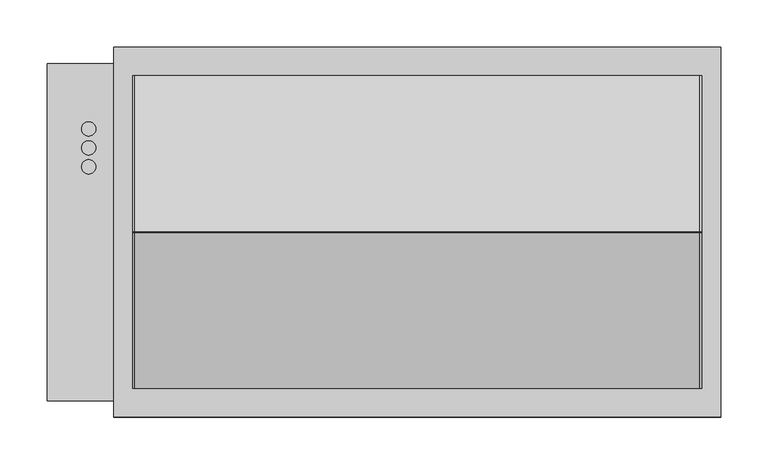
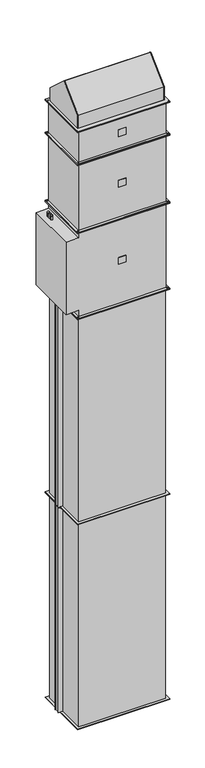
"""IFC4 building model written with IfcOpenShell, lengths in millimetres: proxy geometry, KORF_Завеса_ЭлектрическийНагрев_PWZ_C : PWZ-C 60-35 E."""

from ifc_helpers import new_model, si_unit, point, frame, frame_2d, origin, origin_with_axes, place, context, project, spatial, polyline, circle_curve, trimmed, segment, composite_curve, outline, extrude, source, transform, mapped, element, save


def mechanical_equipment_da6cc8be(model_context):
    return source(origin(), model_context, "Body", "SweptSolid", [
        extrude(outline(polyline([(25.0, -180.0), (-25.0, -180.0), (-25.0, -178.0), (25.0, -178.0), (25.0, -180.0)])), frame((0.0, 0.0, 3290.0), z_axis=(0.0, 0.0, 1.0), x_axis=(1.0, 0.0, 0.0)), (0.0, 0.0, 1.0), 50.0),
        extrude(outline(composite_curve([segment(trimmed(circle_curve(frame_2d((-346.5, 89.0)), 7.5), [point((-339.0, 89.0))], [point((-354.0, 89.0))], False, "CARTESIAN"), True, "CONTINUOUS"), segment(trimmed(circle_curve(frame_2d((-346.5, 89.0)), 7.5), [point((-354.0, 89.0))], [point((-339.0, 89.0))], False, "CARTESIAN"), True, "CONTINUOUS")], self_intersect=False)), frame((0.0, 0.0, 3580.0), z_axis=(0.0, 0.0, 1.0), x_axis=(1.0, 0.0, 0.0)), (0.0, 0.0, 1.0), 30.0),
        extrude(outline(composite_curve([segment(trimmed(circle_curve(frame_2d((-346.5, 69.0)), 7.5), [point((-339.0, 69.0))], [point((-354.0, 69.0))], False, "CARTESIAN"), True, "CONTINUOUS"), segment(trimmed(circle_curve(frame_2d((-346.5, 69.0)), 7.5), [point((-354.0, 69.0))], [point((-339.0, 69.0))], False, "CARTESIAN"), True, "CONTINUOUS")], self_intersect=False)), frame((0.0, 0.0, 3580.0), z_axis=(0.0, 0.0, 1.0), x_axis=(1.0, 0.0, 0.0)), (0.0, 0.0, 1.0), 30.0),
        extrude(outline(composite_curve([segment(trimmed(circle_curve(frame_2d((-346.5, 109.0)), 7.5), [point((-339.0, 109.0))], [point((-354.0, 109.0))], False, "CARTESIAN"), True, "CONTINUOUS"), segment(trimmed(circle_curve(frame_2d((-346.5, 109.0)), 7.5), [point((-354.0, 109.0))], [point((-339.0, 109.0))], False, "CARTESIAN"), True, "CONTINUOUS")], self_intersect=False)), frame((0.0, 0.0, 3580.0), z_axis=(0.0, 0.0, 1.0), x_axis=(1.0, 0.0, 0.0)), (0.0, 0.0, 1.0), 30.0),
        extrude(outline(polyline([(-109.0, 3290.0), (-96.5, 3290.0), (-96.5, 3365.0), (-81.5, 3365.0), (-81.5, 3290.0), (-69.0, 3290.0), (-89.0, 3265.0), (-109.0, 3290.0)])), frame((303.0, 0.0, 0.0), z_axis=(1.0, 0.0, 0.0), x_axis=(0.0, 1.0, 0.0)), (0.0, 0.0, 1.0), 1.0),
        extrude(outline(polyline([(3625.0, 303.0), (3625.0, -303.0), (3580.0, -303.0), (3580.0, -390.0), (3050.0, -390.0), (3050.0, -303.0), (3005.0, -303.0), (3005.0, 303.0), (3625.0, 303.0)])), frame((0.0, -178.0, 0.0), z_axis=(0.0, 1.0, 0.0), x_axis=(0.0, 0.0, 1.0)), (0.0, 0.0, 1.0), 356.0),
        extrude(outline(polyline([(320.0, -195.0), (-320.0, -195.0), (-320.0, 195.0), (320.0, 195.0), (320.0, -195.0)]), holes=[polyline([(300.0, -175.0), (300.0, 175.0), (-300.0, 175.0), (-300.0, -175.0), (300.0, -175.0)]), composite_curve([segment(trimmed(circle_curve(frame_2d((-310.0, -185.0)), 4.5), [point((-305.5, -185.0))], [point((-314.5, -185.0))], True, "CARTESIAN"), True, "CONTINUOUS"), segment(trimmed(circle_curve(frame_2d((-310.0, -185.0)), 4.5), [point((-314.5, -185.0))], [point((-305.5, -185.0))], True, "CARTESIAN"), True, "CONTINUOUS")], self_intersect=False), composite_curve([segment(trimmed(circle_curve(frame_2d((310.0, -185.0)), 4.5), [point((314.5, -185.0))], [point((305.5, -185.0))], True, "CARTESIAN"), True, "CONTINUOUS"), segment(trimmed(circle_curve(frame_2d((310.0, -185.0)), 4.5), [point((305.5, -185.0))], [point((314.5, -185.0))], True, "CARTESIAN"), True, "CONTINUOUS")], self_intersect=False), composite_curve([segment(trimmed(circle_curve(frame_2d((310.0, 185.0)), 4.5), [point((314.5, 185.0))], [point((305.5, 185.0))], True, "CARTESIAN"), True, "CONTINUOUS"), segment(trimmed(circle_curve(frame_2d((310.0, 185.0)), 4.5), [point((305.5, 185.0))], [point((314.5, 185.0))], True, "CARTESIAN"), True, "CONTINUOUS")], self_intersect=False), composite_curve([segment(trimmed(circle_curve(frame_2d((-310.0, 185.0)), 4.5), [point((-305.5, 185.0))], [point((-314.5, 185.0))], True, "CARTESIAN"), True, "CONTINUOUS"), segment(trimmed(circle_curve(frame_2d((-310.0, 185.0)), 4.5), [point((-314.5, 185.0))], [point((-305.5, 185.0))], True, "CARTESIAN"), True, "CONTINUOUS")], self_intersect=False)]), frame((0.0, 0.0, 3625.0), z_axis=(0.0, 0.0, 1.0), x_axis=(1.0, 0.0, 0.0)), (0.0, 0.0, 1.0), 5.0),
        extrude(outline(polyline([(320.0, -195.0), (-320.0, -195.0), (-320.0, 195.0), (320.0, 195.0), (320.0, -195.0)]), holes=[polyline([(300.0, -175.0), (300.0, 175.0), (-300.0, 175.0), (-300.0, -175.0), (300.0, -175.0)]), composite_curve([segment(trimmed(circle_curve(frame_2d((-310.0, -185.0)), 4.5), [point((-305.5, -185.0))], [point((-314.5, -185.0))], True, "CARTESIAN"), True, "CONTINUOUS"), segment(trimmed(circle_curve(frame_2d((-310.0, -185.0)), 4.5), [point((-314.5, -185.0))], [point((-305.5, -185.0))], True, "CARTESIAN"), True, "CONTINUOUS")], self_intersect=False), composite_curve([segment(trimmed(circle_curve(frame_2d((310.0, -185.0)), 4.5), [point((314.5, -185.0))], [point((305.5, -185.0))], True, "CARTESIAN"), True, "CONTINUOUS"), segment(trimmed(circle_curve(frame_2d((310.0, -185.0)), 4.5), [point((305.5, -185.0))], [point((314.5, -185.0))], True, "CARTESIAN"), True, "CONTINUOUS")], self_intersect=False), composite_curve([segment(trimmed(circle_curve(frame_2d((310.0, 185.0)), 4.5), [point((314.5, 185.0))], [point((305.5, 185.0))], True, "CARTESIAN"), True, "CONTINUOUS"), segment(trimmed(circle_curve(frame_2d((310.0, 185.0)), 4.5), [point((305.5, 185.0))], [point((314.5, 185.0))], True, "CARTESIAN"), True, "CONTINUOUS")], self_intersect=False), composite_curve([segment(trimmed(circle_curve(frame_2d((-310.0, 185.0)), 4.5), [point((-305.5, 185.0))], [point((-314.5, 185.0))], True, "CARTESIAN"), True, "CONTINUOUS"), segment(trimmed(circle_curve(frame_2d((-310.0, 185.0)), 4.5), [point((-314.5, 185.0))], [point((-305.5, 185.0))], True, "CARTESIAN"), True, "CONTINUOUS")], self_intersect=False)]), frame((0.0, 0.0, 3000.0), z_axis=(0.0, 0.0, 1.0), x_axis=(1.0, 0.0, 0.0)), (0.0, 0.0, 1.0), 5.0),
        extrude(outline(polyline([(25.0, -180.0), (-25.0, -180.0), (-25.0, -178.0), (25.0, -178.0), (25.0, -180.0)])), frame((0.0, 0.0, 4224.0), z_axis=(0.0, 0.0, 1.0), x_axis=(1.0, 0.0, 0.0)), (0.0, 0.0, 1.0), 50.0),
        extrude(outline(polyline([(-320.0, -195.0), (-320.0, 195.0), (320.0, 195.0), (320.0, -195.0), (-320.0, -195.0)]), holes=[polyline([(-300.0, -175.0), (300.0, -175.0), (300.0, 175.0), (-300.0, 175.0), (-300.0, -175.0)]), composite_curve([segment(trimmed(circle_curve(frame_2d((310.0, -185.0)), 4.5), [point((314.5, -185.0))], [point((305.5, -185.0))], True, "CARTESIAN"), True, "CONTINUOUS"), segment(trimmed(circle_curve(frame_2d((310.0, -185.0)), 4.5), [point((305.5, -185.0))], [point((314.5, -185.0))], True, "CARTESIAN"), True, "CONTINUOUS")], self_intersect=False), composite_curve([segment(trimmed(circle_curve(frame_2d((-310.0, -185.0)), 4.5), [point((-305.5, -185.0))], [point((-314.5, -185.0))], True, "CARTESIAN"), True, "CONTINUOUS"), segment(trimmed(circle_curve(frame_2d((-310.0, -185.0)), 4.5), [point((-314.5, -185.0))], [point((-305.5, -185.0))], True, "CARTESIAN"), True, "CONTINUOUS")], self_intersect=False), composite_curve([segment(trimmed(circle_curve(frame_2d((-310.0, 185.0)), 4.5), [point((-305.5, 185.0))], [point((-314.5, 185.0))], True, "CARTESIAN"), True, "CONTINUOUS"), segment(trimmed(circle_curve(frame_2d((-310.0, 185.0)), 4.5), [point((-314.5, 185.0))], [point((-305.5, 185.0))], True, "CARTESIAN"), True, "CONTINUOUS")], self_intersect=False), composite_curve([segment(trimmed(circle_curve(frame_2d((310.0, 185.0)), 4.5), [point((314.5, 185.0))], [point((305.5, 185.0))], True, "CARTESIAN"), True, "CONTINUOUS"), segment(trimmed(circle_curve(frame_2d((310.0, 185.0)), 4.5), [point((305.5, 185.0))], [point((314.5, 185.0))], True, "CARTESIAN"), True, "CONTINUOUS")], self_intersect=False)]), frame((0.0, 0.0, 4128.0), z_axis=(0.0, 0.0, 1.0), x_axis=(1.0, 0.0, 0.0)), (0.0, 0.0, 1.0), 5.0),
        extrude(outline(polyline([(-320.0, -195.0), (-320.0, 195.0), (320.0, 195.0), (320.0, -195.0), (-320.0, -195.0)]), holes=[polyline([(-300.0, -175.0), (300.0, -175.0), (300.0, 175.0), (-300.0, 175.0), (-300.0, -175.0)]), composite_curve([segment(trimmed(circle_curve(frame_2d((310.0, -185.0)), 4.5), [point((314.5, -185.0))], [point((305.5, -185.0))], True, "CARTESIAN"), True, "CONTINUOUS"), segment(trimmed(circle_curve(frame_2d((310.0, -185.0)), 4.5), [point((305.5, -185.0))], [point((314.5, -185.0))], True, "CARTESIAN"), True, "CONTINUOUS")], self_intersect=False), composite_curve([segment(trimmed(circle_curve(frame_2d((-310.0, -185.0)), 4.5), [point((-305.5, -185.0))], [point((-314.5, -185.0))], True, "CARTESIAN"), True, "CONTINUOUS"), segment(trimmed(circle_curve(frame_2d((-310.0, -185.0)), 4.5), [point((-314.5, -185.0))], [point((-305.5, -185.0))], True, "CARTESIAN"), True, "CONTINUOUS")], self_intersect=False), composite_curve([segment(trimmed(circle_curve(frame_2d((-310.0, 185.0)), 4.5), [point((-305.5, 185.0))], [point((-314.5, 185.0))], True, "CARTESIAN"), True, "CONTINUOUS"), segment(trimmed(circle_curve(frame_2d((-310.0, 185.0)), 4.5), [point((-314.5, 185.0))], [point((-305.5, 185.0))], True, "CARTESIAN"), True, "CONTINUOUS")], self_intersect=False), composite_curve([segment(trimmed(circle_curve(frame_2d((310.0, 185.0)), 4.5), [point((314.5, 185.0))], [point((305.5, 185.0))], True, "CARTESIAN"), True, "CONTINUOUS"), segment(trimmed(circle_curve(frame_2d((310.0, 185.0)), 4.5), [point((305.5, 185.0))], [point((314.5, 185.0))], True, "CARTESIAN"), True, "CONTINUOUS")], self_intersect=False)]), frame((0.0, 0.0, 4365.0), z_axis=(0.0, 0.0, 1.0), x_axis=(1.0, 0.0, 0.0)), (0.0, 0.0, 1.0), 5.0),
        extrude(outline(polyline([(-303.0, -178.0), (-303.0, 178.0), (303.0, 178.0), (303.0, -178.0), (-303.0, -178.0)])), frame((0.0, 0.0, 4133.0), z_axis=(0.0, 0.0, 1.0), x_axis=(1.0, 0.0, 0.0)), (0.0, 0.0, 1.0), 232.0),
        extrude(outline(polyline([(25.0, -180.0), (-25.0, -180.0), (-25.0, -178.0), (25.0, -178.0), (25.0, -180.0)])), frame((0.0, 0.0, 3854.0), z_axis=(0.0, 0.0, 1.0), x_axis=(1.0, 0.0, 0.0)), (0.0, 0.0, 1.0), 50.0),
        extrude(outline(polyline([(320.0, -195.0), (-320.0, -195.0), (-320.0, 195.0), (320.0, 195.0), (320.0, -195.0)]), holes=[polyline([(300.0, -175.0), (300.0, 175.0), (-300.0, 175.0), (-300.0, -175.0), (300.0, -175.0)]), composite_curve([segment(trimmed(circle_curve(frame_2d((-310.0, -185.0)), 4.5), [point((-305.5, -185.0))], [point((-314.5, -185.0))], True, "CARTESIAN"), True, "CONTINUOUS"), segment(trimmed(circle_curve(frame_2d((-310.0, -185.0)), 4.5), [point((-314.5, -185.0))], [point((-305.5, -185.0))], True, "CARTESIAN"), True, "CONTINUOUS")], self_intersect=False), composite_curve([segment(trimmed(circle_curve(frame_2d((310.0, -185.0)), 4.5), [point((314.5, -185.0))], [point((305.5, -185.0))], True, "CARTESIAN"), True, "CONTINUOUS"), segment(trimmed(circle_curve(frame_2d((310.0, -185.0)), 4.5), [point((305.5, -185.0))], [point((314.5, -185.0))], True, "CARTESIAN"), True, "CONTINUOUS")], self_intersect=False), composite_curve([segment(trimmed(circle_curve(frame_2d((310.0, 185.0)), 4.5), [point((314.5, 185.0))], [point((305.5, 185.0))], True, "CARTESIAN"), True, "CONTINUOUS"), segment(trimmed(circle_curve(frame_2d((310.0, 185.0)), 4.5), [point((305.5, 185.0))], [point((314.5, 185.0))], True, "CARTESIAN"), True, "CONTINUOUS")], self_intersect=False), composite_curve([segment(trimmed(circle_curve(frame_2d((-310.0, 185.0)), 4.5), [point((-305.5, 185.0))], [point((-314.5, 185.0))], True, "CARTESIAN"), True, "CONTINUOUS"), segment(trimmed(circle_curve(frame_2d((-310.0, 185.0)), 4.5), [point((-314.5, 185.0))], [point((-305.5, 185.0))], True, "CARTESIAN"), True, "CONTINUOUS")], self_intersect=False)]), frame((0.0, 0.0, 4123.0), z_axis=(0.0, 0.0, 1.0), x_axis=(1.0, 0.0, 0.0)), (0.0, 0.0, 1.0), 5.0),
        extrude(outline(polyline([(320.0, -195.0), (-320.0, -195.0), (-320.0, 195.0), (320.0, 195.0), (320.0, -195.0)]), holes=[polyline([(300.0, -175.0), (300.0, 175.0), (-300.0, 175.0), (-300.0, -175.0), (300.0, -175.0)]), composite_curve([segment(trimmed(circle_curve(frame_2d((-310.0, -185.0)), 4.5), [point((-305.5, -185.0))], [point((-314.5, -185.0))], True, "CARTESIAN"), True, "CONTINUOUS"), segment(trimmed(circle_curve(frame_2d((-310.0, -185.0)), 4.5), [point((-314.5, -185.0))], [point((-305.5, -185.0))], True, "CARTESIAN"), True, "CONTINUOUS")], self_intersect=False), composite_curve([segment(trimmed(circle_curve(frame_2d((310.0, -185.0)), 4.5), [point((314.5, -185.0))], [point((305.5, -185.0))], True, "CARTESIAN"), True, "CONTINUOUS"), segment(trimmed(circle_curve(frame_2d((310.0, -185.0)), 4.5), [point((305.5, -185.0))], [point((314.5, -185.0))], True, "CARTESIAN"), True, "CONTINUOUS")], self_intersect=False), composite_curve([segment(trimmed(circle_curve(frame_2d((310.0, 185.0)), 4.5), [point((314.5, 185.0))], [point((305.5, 185.0))], True, "CARTESIAN"), True, "CONTINUOUS"), segment(trimmed(circle_curve(frame_2d((310.0, 185.0)), 4.5), [point((305.5, 185.0))], [point((314.5, 185.0))], True, "CARTESIAN"), True, "CONTINUOUS")], self_intersect=False), composite_curve([segment(trimmed(circle_curve(frame_2d((-310.0, 185.0)), 4.5), [point((-305.5, 185.0))], [point((-314.5, 185.0))], True, "CARTESIAN"), True, "CONTINUOUS"), segment(trimmed(circle_curve(frame_2d((-310.0, 185.0)), 4.5), [point((-314.5, 185.0))], [point((-305.5, 185.0))], True, "CARTESIAN"), True, "CONTINUOUS")], self_intersect=False)]), frame((0.0, 0.0, 3630.0), z_axis=(0.0, 0.0, 1.0), x_axis=(1.0, 0.0, 0.0)), (0.0, 0.0, 1.0), 5.0),
        extrude(outline(polyline([(303.0, -178.0), (-303.0, -178.0), (-303.0, 178.0), (303.0, 178.0), (303.0, -178.0)])), frame((0.0, 0.0, 3635.0), z_axis=(0.0, 0.0, 1.0), x_axis=(1.0, 0.0, 0.0)), (0.0, 0.0, 1.0), 488.0),
        extrude(outline(polyline([(300.0, 175.0), (300.0, -175.0), (-300.0, -175.0), (-300.0, 175.0), (300.0, 175.0)])), frame((0.0, 0.0, 1500.0), z_axis=(0.0, 0.0, 1.0), x_axis=(1.0, 0.0, 0.0)), (0.0, 0.0, 1.0), 1500.0),
        extrude(outline(polyline([(-328.0, 47.5), (-300.0, 47.5), (-300.0, 18.5), (-328.0, 18.5), (-328.0, 47.5)])), frame((0.0, 0.0, 1502.0), z_axis=(0.0, 0.0, 1.0), x_axis=(1.0, 0.0, 0.0)), (0.0, 0.0, 1.0), 1496.0),
        extrude(outline(polyline([(-332.0, 51.5), (-300.0, 51.5), (-300.0, 49.5), (-332.0, 49.5), (-332.0, 51.5)])), frame((0.0, 0.0, 1502.0), z_axis=(0.0, 0.0, 1.0), x_axis=(1.0, 0.0, 0.0)), (0.0, 0.0, 1.0), 1496.0),
        extrude(outline(polyline([(-332.0, 14.5), (-332.0, 16.5), (-300.0, 16.5), (-300.0, 14.5), (-332.0, 14.5)])), frame((0.0, 0.0, 1502.0), z_axis=(0.0, 0.0, 1.0), x_axis=(1.0, 0.0, 0.0)), (0.0, 0.0, 1.0), 1496.0),
        extrude(outline(polyline([(320.0, 195.0), (320.0, -195.0), (-320.0, -195.0), (-320.0, 195.0), (320.0, 195.0)]), holes=[polyline([(300.0, 175.0), (-300.0, 175.0), (-300.0, -175.0), (300.0, -175.0), (300.0, 175.0)])]), frame((0.0, 0.0, 2998.0), z_axis=(0.0, 0.0, 1.0), x_axis=(1.0, 0.0, 0.0)), (0.0, 0.0, 1.0), 2.0),
        extrude(outline(polyline([(320.0, 195.0), (320.0, -195.0), (-320.0, -195.0), (-320.0, 195.0), (320.0, 195.0)]), holes=[polyline([(300.0, 175.0), (-300.0, 175.0), (-300.0, -175.0), (300.0, -175.0), (300.0, 175.0)])]), frame((0.0, 0.0, 1500.0), z_axis=(0.0, 0.0, 1.0), x_axis=(1.0, 0.0, 0.0)), (0.0, 0.0, 1.0), 2.0),
        extrude(outline(polyline([(300.0, 175.0), (300.0, -175.0), (-300.0, -175.0), (-300.0, 175.0), (300.0, 175.0)])), origin_with_axes(), (0.0, 0.0, 1.0), 1500.0),
        extrude(outline(polyline([(-328.0, 47.5), (-300.0, 47.5), (-300.0, 18.5), (-328.0, 18.5), (-328.0, 47.5)])), frame((0.0, 0.0, 2.0), z_axis=(0.0, 0.0, 1.0), x_axis=(1.0, 0.0, 0.0)), (0.0, 0.0, 1.0), 1496.0),
        extrude(outline(polyline([(-332.0, 51.5), (-300.0, 51.5), (-300.0, 49.5), (-332.0, 49.5), (-332.0, 51.5)])), frame((0.0, 0.0, 2.0), z_axis=(0.0, 0.0, 1.0), x_axis=(1.0, 0.0, 0.0)), (0.0, 0.0, 1.0), 1496.0),
        extrude(outline(polyline([(-332.0, 14.5), (-332.0, 16.5), (-300.0, 16.5), (-300.0, 14.5), (-332.0, 14.5)])), frame((0.0, 0.0, 2.0), z_axis=(0.0, 0.0, 1.0), x_axis=(1.0, 0.0, 0.0)), (0.0, 0.0, 1.0), 1496.0),
        extrude(outline(polyline([(320.0, 195.0), (320.0, -195.0), (-320.0, -195.0), (-320.0, 195.0), (320.0, 195.0)]), holes=[polyline([(300.0, 175.0), (-300.0, 175.0), (-300.0, -175.0), (300.0, -175.0), (300.0, 175.0)])]), frame((0.0, 0.0, 1498.0), z_axis=(0.0, 0.0, 1.0), x_axis=(1.0, 0.0, 0.0)), (0.0, 0.0, 1.0), 2.0),
        extrude(outline(polyline([(320.0, 195.0), (320.0, -195.0), (-320.0, -195.0), (-320.0, 195.0), (320.0, 195.0)]), holes=[polyline([(300.0, 175.0), (-300.0, 175.0), (-300.0, -175.0), (300.0, -175.0), (300.0, 175.0)])]), origin_with_axes(), (0.0, 0.0, 1.0), 2.0),
        extrude(outline(composite_curve([segment(polyline([(165.0, 4467.1428571), (165.0, 4372.0), (-165.0, 4372.0), (-165.0, 4467.1428571), (-0.6395979, 4619.3786763)]), True, "CONTINUOUS"), segment(trimmed(circle_curve(frame_2d((0.0, 4618.7202668)), 0.9179263), [point((-0.6395979, 4619.3786763))], [point((0.6395979, 4619.3786763))], False, "CARTESIAN"), True, "CONTINUOUS"), segment(polyline([(0.6395979, 4619.3786763), (165.0, 4467.1428571)]), True, "CONTINUOUS")], self_intersect=False)), frame((298.0, 0.0, 0.0), z_axis=(1.0, 0.0, 0.0), x_axis=(0.0, 1.0, 0.0)), (0.0, 0.0, 1.0), 2.0),
        extrude(outline(composite_curve([segment(polyline([(165.0, 4467.1428571), (165.0, 4372.0), (-165.0, 4372.0), (-165.0, 4467.1428571), (-0.6395979, 4619.3786763)]), True, "CONTINUOUS"), segment(trimmed(circle_curve(frame_2d((0.0, 4618.7202668)), 0.9179263), [point((-0.6395979, 4619.3786763))], [point((0.6395979, 4619.3786763))], False, "CARTESIAN"), True, "CONTINUOUS"), segment(polyline([(0.6395979, 4619.3786763), (165.0, 4467.1428571)]), True, "CONTINUOUS")], self_intersect=False)), frame((-298.0, 0.0, 0.0), z_axis=(1.0, 0.0, 0.0), x_axis=(0.0, 1.0, 0.0)), (0.0, 0.0, 1.0), 596.0),
        extrude(outline(composite_curve([segment(polyline([(165.0, 4467.1428571), (165.0, 4372.0), (-165.0, 4372.0), (-165.0, 4467.1428571), (-0.6395979, 4619.3786763)]), True, "CONTINUOUS"), segment(trimmed(circle_curve(frame_2d((0.0, 4618.7202668)), 0.9179263), [point((-0.6395979, 4619.3786763))], [point((0.6395979, 4619.3786763))], False, "CARTESIAN"), True, "CONTINUOUS"), segment(polyline([(0.6395979, 4619.3786763), (165.0, 4467.1428571)]), True, "CONTINUOUS")], self_intersect=False)), frame((-300.0, 0.0, 0.0), z_axis=(1.0, 0.0, 0.0), x_axis=(0.0, 1.0, 0.0)), (0.0, 0.0, 1.0), 2.0),
        extrude(outline(polyline([(320.0, 195.0), (320.0, -195.0), (-320.0, -195.0), (-320.0, 195.0), (320.0, 195.0)]), holes=[polyline([(-300.0, 165.0), (-300.0, -165.0), (300.0, -165.0), (300.0, 165.0), (-300.0, 165.0)])]), frame((0.0, 0.0, 4370.0), z_axis=(0.0, 0.0, 1.0), x_axis=(1.0, 0.0, 0.0)), (0.0, 0.0, 1.0), 2.0),
    ])


if __name__ == "__main__":
    model = new_model("IFC4")
    model_context = context("Model", 3, world=origin())
    ifc_project = project(units=[si_unit("LENGTHUNIT", "METRE", prefix="MILLI")], contexts=[model_context])
    site = spatial("IfcSite", under=ifc_project)
    building = spatial("IfcBuilding", under=site)
    placement = place(None, origin())
    mechanical_equipment_shape = mechanical_equipment_da6cc8be(model_context)
    element("IfcBuildingElementProxy", 1, Name="KORF_Завеса_ЭлектрическийНагрев_PWZ_C : PWZ-C 60-35 E", ObjectType="KORF_Завеса_ЭлектрическийНагрев_PWZ_C : PWZ-C 60-35 E", at=placement, inside=building, context=model_context, shape_type="MappedRepresentation", body=[
        mapped(mechanical_equipment_shape, transform((0.0, 0.0, 0.0), x_axis=(1.0, 0.0, 0.0), y_axis=(0.0, 1.0, 0.0), z_axis=(0.0, 0.0, 1.0))),
    ])
    save(model, "model.ifc")
